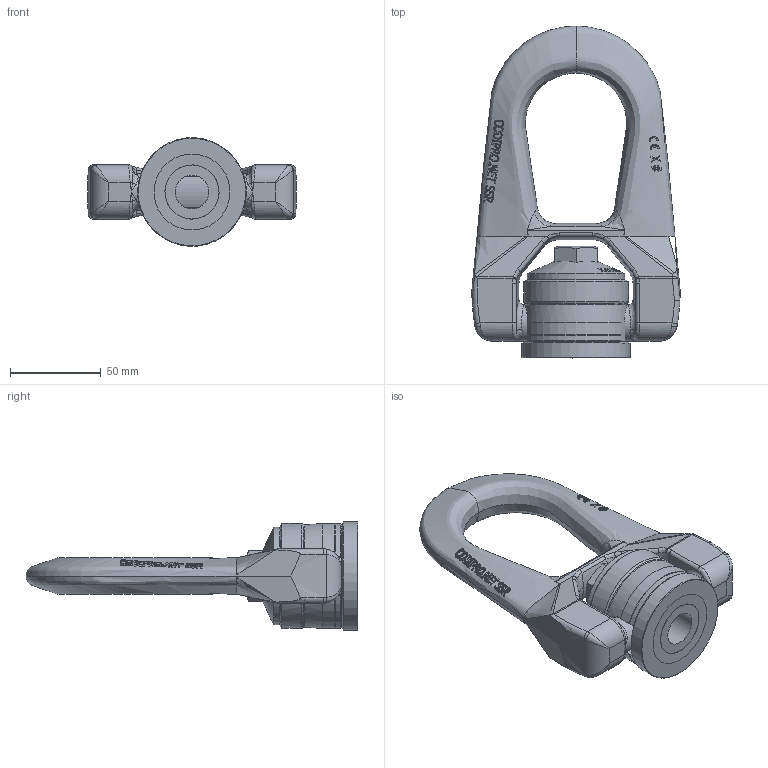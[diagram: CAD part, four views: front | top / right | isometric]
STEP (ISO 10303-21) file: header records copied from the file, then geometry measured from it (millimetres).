
FILE_DESCRIPTION(/* description */ (''),/* implementation_level */ '2;1');
FILE_NAME(/* name */ 'W:\CODIPRO\DOCUMENTS\Plans A NE PAS DIFFUSER !!!\Inventor\Standard Inventor\Produit Fini Inventor\SS_FE_DSR\Fichiers 3D\SS FE DSR M22.stp',/* time_stamp */ '2017-10-06T08:30:52+02:00',/* author */ ('rklenes'),/* organization */ (''),/* preprocessor_version */ 'ST-DEVELOPER v16.5',/* originating_system */ 'Autodesk Inventor 2017',/* authorisation */ '');
FILE_SCHEMA (('AUTOMOTIVE_DESIGN { 1 0 10303 214 3 1 1 }'));
Products named in the file (5): FE DSR M22; DRM_AF3B; SSB_B3B; FE_DRA_M22; DRE_D3M30A
Assembly tree (4 placements, depth 2):
  FE DSR M22
    DRM_AF3B
    SSB_B3B
    FE_DRA_M22
    DRE_D3M30A
Bounding box: 115 x 183.25 x 59.89 mm (x, y, z)
Volume: 297710.5 mm3; surface area: 74613.9 mm2
Topology: 4 solids, 4 shells, 761 faces, 2036 edges, 1315 vertices
Faces by surface type: plane 350, bspline 295, cylinder 70, cone 30, torus 15, sphere 1
Full cylindrical faces by diameter (mm): 18.752 x1, 20 x2, 29.92 x3, 30.12 x1, 33.6 x2, 34 x2, 46 x1, 54 x1, 58 x1, 60 x1
Entity records: 44581 total; most frequent: CARTESIAN_POINT 27731, ORIENTED_EDGE 3984, DIRECTION 2640, EDGE_CURVE 1992, VERTEX_POINT 1310, AXIS2_PLACEMENT_3D 967, EDGE_LOOP 840, FACE_OUTER_BOUND 761
